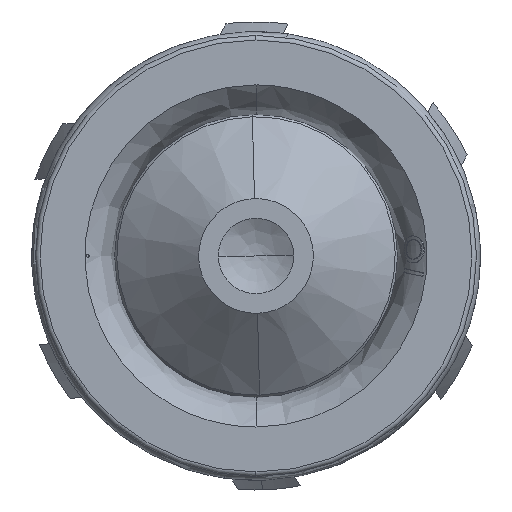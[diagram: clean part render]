
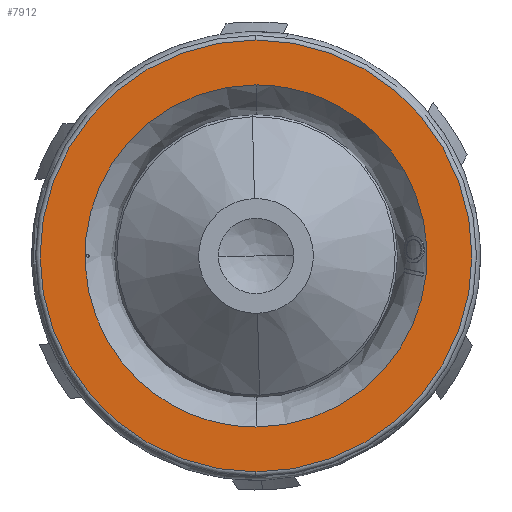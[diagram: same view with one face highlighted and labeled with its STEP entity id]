
A CAD part, left-side view. The second image highlights one B-rep face of the part: STEP entity #7912.
In plain terms, the highlighted planar face has unit normal (-1, 0, 0).
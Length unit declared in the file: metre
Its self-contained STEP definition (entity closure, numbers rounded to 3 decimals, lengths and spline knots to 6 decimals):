
#652 = ORIENTED_EDGE ( 'NONE', *, *, #5628, .F. ) ;
#774 = EDGE_LOOP ( 'NONE', ( #6527, #12056 ) ) ;
#1296 = DIRECTION ( 'NONE',  ( 0., 0., 1. ) ) ;
#1305 = CARTESIAN_POINT ( 'NONE',  ( 0., 0., -0.01505 ) ) ;
#1636 = CARTESIAN_POINT ( 'NONE',  ( 0., 0., 0.01505 ) ) ;
#2220 = CARTESIAN_POINT ( 'NONE',  ( 0., 0., -0.01505 ) ) ;
#2526 = CARTESIAN_POINT ( 'NONE',  ( 0., 0., 0.01505 ) ) ;
#2810 = DIRECTION ( 'NONE',  ( 1., 0., 0. ) ) ;
#4120 = EDGE_CURVE ( 'NONE', #11659, #8090, #21300, .T. ) ;
#5577 = CARTESIAN_POINT ( 'NONE',  ( 0., 0., 0. ) ) ;
#5626 = CIRCLE ( 'NONE', #11583, 0.019 ) ;
#5628 = EDGE_CURVE ( 'NONE', #18846, #21139, #5626, .T. ) ;
#6033 = AXIS2_PLACEMENT_3D ( 'NONE', #5577, #7206, #18979 ) ;
#6194 = DIRECTION ( 'NONE',  ( 0., 0., -1. ) ) ;
#6527 = ORIENTED_EDGE ( 'NONE', *, *, #4120, .F. ) ;
#6921 = FACE_OUTER_BOUND ( 'NONE', #12238, .T. ) ;
#7206 = DIRECTION ( 'NONE',  ( 1., 0., 0. ) ) ;
#7912 = ADVANCED_FACE ( 'NONE', ( #14009, #6921 ), #21484, .F. ) ;
#8090 = VERTEX_POINT ( 'NONE', #1636 ) ;
#8593 = CARTESIAN_POINT ( 'NONE',  ( 0., -0.0301, 0.01505 ) ) ;
#9636 = CARTESIAN_POINT ( 'NONE',  ( 0., 0., -0.019 ) ) ;
#10253 = CARTESIAN_POINT ( 'NONE',  ( 0., 0., 0.01505 ) ) ;
#10444 = EDGE_CURVE ( 'NONE', #21139, #18846, #10787, .T. ) ;
#10787 = CIRCLE ( 'NONE', #6033, 0.019 ) ;
#11181 = CARTESIAN_POINT ( 'NONE',  ( 0., -0.019228, 0.019228 ) ) ;
#11317 = CARTESIAN_POINT ( 'NONE',  ( 0., 0., 0. ) ) ;
#11406 = DIRECTION ( 'NONE',  ( 1., 0., 0. ) ) ;
#11583 = AXIS2_PLACEMENT_3D ( 'NONE', #11317, #2810, #1296 ) ;
#11659 = VERTEX_POINT ( 'NONE', #1305 ) ;
#11891 = ORIENTED_EDGE ( 'NONE', *, *, #10444, .F. ) ;
#12056 = ORIENTED_EDGE ( 'NONE', *, *, #17771, .F. ) ;
#12238 = EDGE_LOOP ( 'NONE', ( #11891, #652 ) ) ;
#12328 = AXIS2_PLACEMENT_3D ( 'NONE', #11181, #11406, #6194 ) ;
#14009 = FACE_BOUND ( 'NONE', #774, .T. ) ;
#14035 = CARTESIAN_POINT ( 'NONE',  ( 0., 0.0301, -0.01505 ) ) ;
#15636 = CARTESIAN_POINT ( 'NONE',  ( 0., 0., 0.019 ) ) ;
#15959 =( BOUNDED_CURVE ( )  B_SPLINE_CURVE ( 3, ( #2526, #20893, #14035, #2220 ),
 .UNSPECIFIED., .F., .T. ) 
 B_SPLINE_CURVE_WITH_KNOTS ( ( 4, 4 ),
 ( 0., 0.047044 ),
 .UNSPECIFIED. ) 
 CURVE ( )  GEOMETRIC_REPRESENTATION_ITEM ( )  RATIONAL_B_SPLINE_CURVE ( ( 0.973, 0.324, 0.324, 0.973 ) ) 
 REPRESENTATION_ITEM ( '' )  );
#17771 = EDGE_CURVE ( 'NONE', #8090, #11659, #15959, .T. ) ;
#18659 = CARTESIAN_POINT ( 'NONE',  ( 0., -0.0301, -0.01505 ) ) ;
#18846 = VERTEX_POINT ( 'NONE', #9636 ) ;
#18979 = DIRECTION ( 'NONE',  ( 0., 0., 1. ) ) ;
#20418 = CARTESIAN_POINT ( 'NONE',  ( 0., 0., -0.01505 ) ) ;
#20893 = CARTESIAN_POINT ( 'NONE',  ( 0., 0.0301, 0.01505 ) ) ;
#21139 = VERTEX_POINT ( 'NONE', #15636 ) ;
#21300 =( BOUNDED_CURVE ( )  B_SPLINE_CURVE ( 3, ( #20418, #18659, #8593, #10253 ),
 .UNSPECIFIED., .F., .F. ) 
 B_SPLINE_CURVE_WITH_KNOTS ( ( 4, 4 ),
 ( 0., 0.047044 ),
 .UNSPECIFIED. ) 
 CURVE ( )  GEOMETRIC_REPRESENTATION_ITEM ( )  RATIONAL_B_SPLINE_CURVE ( ( 0.973, 0.324, 0.324, 0.973 ) ) 
 REPRESENTATION_ITEM ( '' )  );
#21484 = PLANE ( 'NONE',  #12328 ) ;
